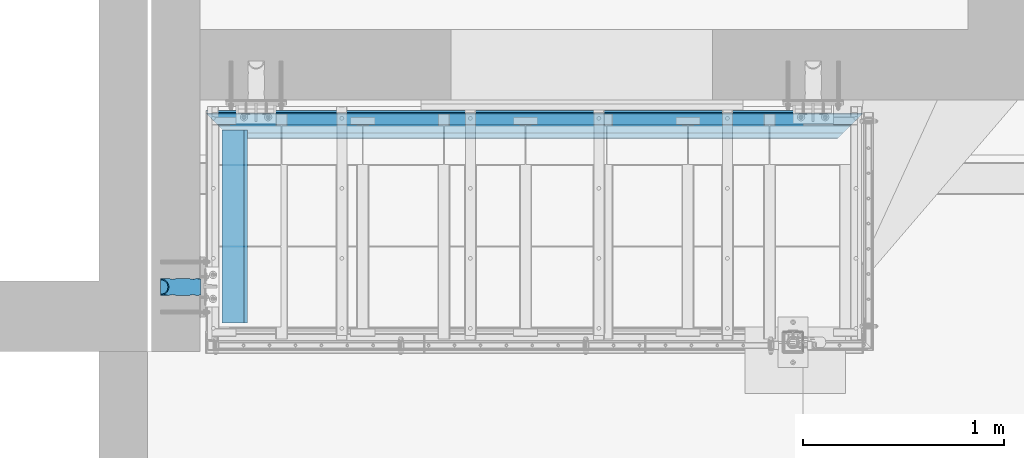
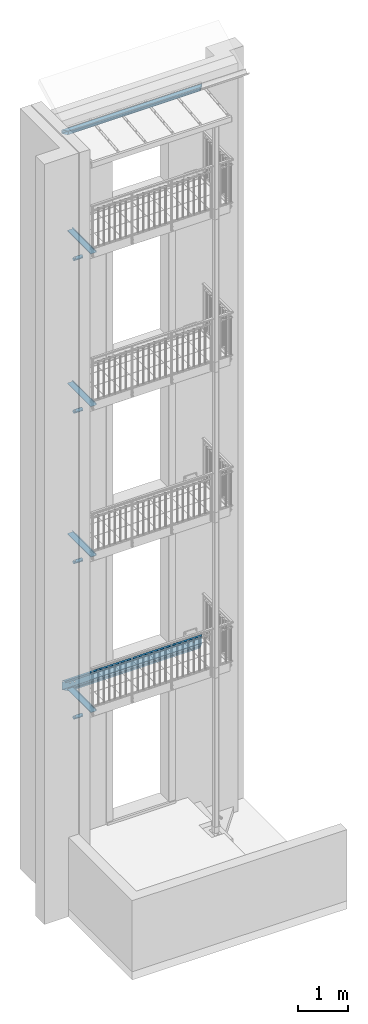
# One storey, part 49 of 162: 10 beams, 40 openings.
"""IFC2X3 building model written with IfcOpenShell, lengths in millimetres."""

import ifcopenshell
import ifcopenshell.guid

model = None  # the IFC model being written
_history = None  # IfcOwnerHistory: only IFC2X3 demands one
_inside = {}  # id of a spatial element -> (the spatial element, [elements in it])
_under = {}  # id of a project, library or spatial element -> (it, [spatial elements below it])
_declared = {}  # id of a project -> (the project, [libraries it declares])
_typed = {}  # id of a type object -> (the type object, [elements of that type])
_made_of = {}  # id of a material, layer set ... -> (it, [elements and type objects made of it])


def new_model(schema):
    """Start an empty IFC model of exactly this schema.

    Asked for "IFC4X3", IfcOpenShell would pick the latest addendum, in which some entities
    have other attributes; the version numbers below select the first issue.
    IFC2X3 requires an IfcOwnerHistory on every rooted entity: one is made here for all.
    """
    global model, _history
    if schema == "IFC4X3":
        model = ifcopenshell.file(schema_version=(4, 3, 0, 0))
    else:
        model = ifcopenshell.file(schema=schema)
    _inside.clear()
    _under.clear()
    _declared.clear()
    _typed.clear()
    _made_of.clear()
    _history = None
    if model.schema == "IFC2X3":
        org = make("IfcOrganization", Name="unknown")
        user = make(
            "IfcPersonAndOrganization",
            ThePerson=make("IfcPerson", FamilyName="unknown"),
            TheOrganization=org,
        )
        app = make(
            "IfcApplication",
            ApplicationDeveloper=org,
            Version="unknown",
            ApplicationFullName="unknown",
            ApplicationIdentifier="unknown",
        )
        _history = make(
            "IfcOwnerHistory",
            OwningUser=user,
            OwningApplication=app,
            ChangeAction="ADDED",
            CreationDate=0,
        )
    return model


def make(cls, **values):
    """One entity of the class cls with the attributes given. An attribute that is None is left unset."""
    return model.create_entity(
        cls, **{name: value for name, value in values.items() if value is not None}
    )


def entity(cls, *values):
    """Any entity or typed value of the class cls, its attributes in the order of the schema. None: left unset."""
    e = model.create_entity(cls)
    for i, value in enumerate(values):
        if value is not None:
            e[i] = value
    return e


def rooted(cls, **values):
    """An entity with a GlobalId (a new one), such as an element, a storey or a relation."""
    return make(cls, GlobalId=ifcopenshell.guid.new(), OwnerHistory=_history, **values)


def si_unit(unit_type, name, prefix=None):
    """IfcSIUnit, for example si_unit("LENGTHUNIT", "METRE", prefix="MILLI")."""
    return make("IfcSIUnit", UnitType=unit_type, Prefix=prefix, Name=name)


def converted_unit(unit_type, name, factor, base, dimensions=None, offset=None):
    """IfcConversionBasedUnit, such as the inch: factor (a typed value) times the base unit."""
    return make(
        "IfcConversionBasedUnit"
        if offset is None
        else "IfcConversionBasedUnitWithOffset",
        ConversionOffset=offset,
        Dimensions=None
        if dimensions is None
        else entity("IfcDimensionalExponents", *dimensions),
        UnitType=unit_type,
        Name=name,
        ConversionFactor=make(
            "IfcMeasureWithUnit", ValueComponent=factor, UnitComponent=base
        ),
    )


def assignment(units):
    """IfcUnitAssignment: the units of a project."""
    return None if units is None else make("IfcUnitAssignment", Units=units)


def point(xyz):
    """IfcCartesianPoint."""
    return None if xyz is None else make("IfcCartesianPoint", Coordinates=xyz)


def direction(xyz):
    """IfcDirection."""
    return None if xyz is None else make("IfcDirection", DirectionRatios=xyz)


def frame(location, z_axis=None, x_axis=None):
    """IfcAxis2Placement3D, a coordinate frame: its origin and axes. An axis left out is left unset."""
    return make(
        "IfcAxis2Placement3D",
        Location=point(location),
        Axis=direction(z_axis),
        RefDirection=direction(x_axis),
    )


def frame_2d(location, x_axis=None):
    """IfcAxis2Placement2D, a coordinate frame in the plane: its origin and x axis."""
    return make(
        "IfcAxis2Placement2D", Location=point(location), RefDirection=direction(x_axis)
    )


def origin():
    """The frame at (0, 0, 0) with its axes left unset."""
    return frame((0.0, 0.0, 0.0))


def origin_with_axes():
    """The frame at (0, 0, 0) with the z axis (0, 0, 1) and the x axis (1, 0, 0) written out."""
    return frame((0.0, 0.0, 0.0), z_axis=(0.0, 0.0, 1.0), x_axis=(1.0, 0.0, 0.0))


def origin_2d():
    """The frame at (0, 0) in the plane with its x axis left unset."""
    return frame_2d((0.0, 0.0))


def place(relative_to, where):
    """IfcLocalPlacement: puts the frame where relative to a parent placement (None: the world)."""
    return make(
        "IfcLocalPlacement", PlacementRelTo=relative_to, RelativePlacement=where
    )


def context(
    kind, dimensions, precision=None, world=None, true_north=None, identifier=None
):
    """IfcGeometricRepresentationContext, for example the 3D "Model" context."""
    return make(
        "IfcGeometricRepresentationContext",
        ContextIdentifier=identifier,
        ContextType=kind,
        CoordinateSpaceDimension=dimensions,
        Precision=precision,
        WorldCoordinateSystem=world,
        TrueNorth=true_north,
    )


def project(units=None, contexts=None):
    """IfcProject with its units and contexts."""
    return rooted(
        "IfcProject",
        Name="project",
        RepresentationContexts=contexts,
        UnitsInContext=assignment(units),
    )


def spatial(cls, under=None, at=None, **own):
    """A site, building, storey or space (cls), placed at a placement, below another one or the project."""
    s = rooted(cls, ObjectPlacement=at, **own)
    if under is not None:
        _under.setdefault(under.id(), (under, []))[1].append(s)
    return s


def polyline(points):
    """IfcPolyline through the points."""
    return make("IfcPolyline", Points=[point(p) for p in points])


def circle_curve(where, radius):
    """IfcCircle in the frame where."""
    return make("IfcCircle", Position=where, Radius=radius)


def line_curve(start, along, magnitude):
    """IfcLine from a point along a vector."""
    return make(
        "IfcLine",
        Pnt=point(start),
        Dir=make("IfcVector", Orientation=direction(along), Magnitude=magnitude),
    )


def trimmed(basis, trim1, trim2, sense, master):
    """IfcTrimmedCurve: the piece of a basis curve between two trims."""
    return make(
        "IfcTrimmedCurve",
        BasisCurve=basis,
        Trim1=trim1,
        Trim2=trim2,
        SenseAgreement=sense,
        MasterRepresentation=master,
    )


def segment(curve, same_sense, transition):
    """IfcCompositeCurveSegment."""
    return make(
        "IfcCompositeCurveSegment",
        Transition=transition,
        SameSense=same_sense,
        ParentCurve=curve,
    )


def composite_curve(segments, self_intersect=None):
    """IfcCompositeCurve: segments joined end to end."""
    return make("IfcCompositeCurve", Segments=segments, SelfIntersect=self_intersect)


def profile(cls, at=None, kind="AREA", **sizes):
    """A parametric profile (cls). Its sizes go by their IFC names, for example OverallWidth=200.0."""
    return make(cls, ProfileType=kind, Position=at, **sizes)


def hollow_rectangle(**sizes):
    """IfcRectangleHollowProfileDef."""
    return profile("IfcRectangleHollowProfileDef", **sizes)


def circle(**sizes):
    """IfcCircleProfileDef."""
    return profile("IfcCircleProfileDef", **sizes)


def hollow_circle(**sizes):
    """IfcCircleHollowProfileDef."""
    return profile("IfcCircleHollowProfileDef", **sizes)


def outline(outer, holes=None, kind="AREA"):
    """IfcArbitraryClosedProfileDef: a profile drawn as a closed curve; with holes, ...WithVoids."""
    if holes is None:
        return make("IfcArbitraryClosedProfileDef", ProfileType=kind, OuterCurve=outer)
    return make(
        "IfcArbitraryProfileDefWithVoids",
        ProfileType=kind,
        OuterCurve=outer,
        InnerCurves=holes,
    )


def extrude(swept, where, along, depth):
    """IfcExtrudedAreaSolid: the profile swept, set in the frame where, extruded along a direction by depth."""
    return make(
        "IfcExtrudedAreaSolid",
        SweptArea=swept,
        Position=where,
        ExtrudedDirection=direction(along),
        Depth=depth,
    )


def clip(a, b, op="DIFFERENCE"):
    """IfcBooleanClippingResult: the solid a cut by the half space b."""
    return make(
        "IfcBooleanClippingResult", Operator=op, FirstOperand=a, SecondOperand=b
    )


def halfspace(plane, agree):
    """IfcHalfSpaceSolid: all space on one side of the plane z = 0 of the frame plane."""
    return make(
        "IfcHalfSpaceSolid",
        BaseSurface=make("IfcPlane", Position=plane),
        AgreementFlag=agree,
    )


def shape(context_of_items, identifier, shape_type, items):
    """IfcShapeRepresentation: the items that make up one representation, for example the "Body"."""
    return make(
        "IfcShapeRepresentation",
        ContextOfItems=context_of_items,
        RepresentationIdentifier=identifier,
        RepresentationType=shape_type,
        Items=items,
    )


def material(Name=None, Category=None):
    """IfcMaterial."""
    return make("IfcMaterial", Name=Name, Category=Category)


def made_of(thing, what):
    """Note that an element or type object is made of a material, layer set ...; save() writes the relation."""
    if what is not None:
        _made_of.setdefault(what.id(), (what, []))[1].append(thing)
    return thing


def element(
    cls,
    number,
    at=None,
    inside=None,
    cuts=None,
    type_object=None,
    material=None,
    context=None,
    identifier="Body",
    shape_type=None,
    held_by="IfcProductDefinitionShape",
    body=None,
    shapes=None,
    **own,
):
    """One element of the class cls, such as IfcWall. Its Tag is "e" and its number.

    at: its placement. inside: the storey or other place that contains it. cuts: it is an
    opening in that element (IfcRelVoidsElement). A single representation is given by context,
    identifier, shape_type and body (its items); several are given by shapes. held_by: the class
    of the entity that holds the representations. save() writes the other relations.
    """
    e = rooted(cls, Tag="e%d" % number, ObjectPlacement=at, **own)
    if body is not None:
        shapes = [shape(context, identifier, shape_type, body)]
    if shapes is not None:
        e.Representation = make(held_by, Representations=shapes)
    if inside is not None:
        _inside.setdefault(inside.id(), (inside, []))[1].append(e)
    if cuts is not None:
        rooted(
            "IfcRelVoidsElement", RelatingBuildingElement=cuts, RelatedOpeningElement=e
        )
    if type_object is not None:
        _typed.setdefault(type_object.id(), (type_object, []))[1].append(e)
    return made_of(e, material)


def aggregate(whole, parts):
    """IfcRelAggregates: a whole, such as a stair, and the parts it consists of."""
    return rooted("IfcRelAggregates", RelatingObject=whole, RelatedObjects=parts)


def save(model, path):
    """Write the relations noted so far, then the file.

    IfcRelAggregates (storeys below a building ...), IfcRelContainedInSpatialStructure (elements
    in a storey), IfcRelDefinesByType, IfcRelAssociatesMaterial and IfcRelDeclares: one each for
    every whole, place, type object, material and project.
    """
    for whole, parts in _under.values():
        aggregate(whole, parts)
    for where, things in _inside.values():
        rooted(
            "IfcRelContainedInSpatialStructure",
            RelatedElements=things,
            RelatingStructure=where,
        )
    for kind, things in _typed.values():
        rooted("IfcRelDefinesByType", RelatedObjects=things, RelatingType=kind)
    for what, things in _made_of.values():
        rooted("IfcRelAssociatesMaterial", RelatedObjects=things, RelatingMaterial=what)
    for by, libraries in _declared.values():
        rooted("IfcRelDeclares", RelatingContext=by, RelatedDefinitions=libraries)
    model.write(path)


model = new_model("IFC2X3")

# Units and contexts
model_context = context("Model", 3, precision=1e-09, world=origin_with_axes())
ifc_project = project(units=[si_unit("LENGTHUNIT", "METRE", prefix="MILLI"), si_unit("AREAUNIT", "SQUARE_METRE"), si_unit("VOLUMEUNIT", "CUBIC_METRE"), converted_unit("PLANEANGLEUNIT", "DEGREE", entity("IfcPlaneAngleMeasure", 0.01745329), si_unit("PLANEANGLEUNIT", "RADIAN"), dimensions=[0, 0, 0, 0, 0, 0, 0])], contexts=[model_context])

# Site, building, storey
site_placement = place(None, origin_with_axes())
site = spatial("IfcSite", under=ifc_project, at=site_placement, Name="Hermannstra?e 1a, 60318 Frankfurt", CompositionType="ELEMENT")
building_placement = place(site_placement, origin_with_axes())
building = spatial("IfcBuilding", under=site, at=building_placement, Name="Struktur 1", CompositionType="ELEMENT")
storey_placement = place(building_placement, origin_with_axes())
storey = spatial("IfcBuildingStorey", under=building, at=storey_placement, Name="Default Storey", CompositionType="ELEMENT", Elevation=0.0)

# Beams
ifc_material_1 = material(Name="Alu")
for number, where, z_axis, x_axis in (
    (1, (2633.80936482, 1625.609373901, 7577.0), (0.0, -1.0, 0.0), (1.0, 0.0, 0.0)),
    (2, (2633.80936482, 1625.609373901, 11276.999), (0.0, -1.0, 0.0), (1.0, 0.0, 0.0)),
    (3, (2633.80936482, 1625.609373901, 15033.999), (0.0, -1.0, 0.0), (1.0, 0.0, 0.0)),
):
    element("IfcBeam", number, at=place(None, frame(where, z_axis=z_axis, x_axis=x_axis)), inside=storey, material=ifc_material_1, Name="-", ObjectType="-", context=model_context, shape_type="SweptSolid", body=[
        extrude(outline(polyline([(109.453520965, 47.514348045), (125.0, 49.699263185), (125.0, 20.0), (0.0, 20.0), (0.0, 0.0), (2.0, 0.0), (2.0, 18.0), (127.0, 18.0), (127.0, 52.0), (109.175174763, 49.494884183), (109.453520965, 47.514348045)])), origin(), (0.0, 0.0, -1.0), 960.0),
    ])

# Beam, openings
ifc_material_2 = material(Name="S235JR")
beam_1_placement = place(None, frame((2528.30936482, 1805.609373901, 11169.999), z_axis=(-1.0, 0.0, 0.0), x_axis=(0.0, 0.0, 1.0)))
beam_1 = element("IfcBeam", 4, at=beam_1_placement, inside=storey, material=ifc_material_2, Name="-", ObjectType="-", context=model_context, shape_type="SweptSolid", body=[
    extrude(hollow_circle(Radius=41.25, WallThickness=5.0, at=origin_2d()), origin(), (0.0, 0.0, 1.0), 200.0),
])
opening_1_placement = place(beam_1_placement, frame((-36.368270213, -141.35, 236.366855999), z_axis=(0.0, -1.0, 0.0), x_axis=(0.707106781, 0.0, -0.707106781)))
element("IfcOpeningElement", 5, at=opening_1_placement, cuts=beam_1, ObjectType="Opening", context=model_context, shape_type="SweptSolid", body=[
    extrude(outline(polyline([(0.0, 0.0), (179.585201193, 0.0), (64.987133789, 114.598067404), (0.0, 0.0)])), origin(), (0.0, 0.0, -1.0), 282.7),
])
opening_2_placement = place(beam_1_placement, frame((0.0, -32.727655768, 100.0), z_axis=(0.0, -1.0, 0.0), x_axis=(0.0, 0.0, -1.0)))
element("IfcOpeningElement", 6, at=opening_2_placement, cuts=beam_1, ObjectType="Opening", context=model_context, shape_type="SweptSolid", body=[
    extrude(circle(Radius=15.001, at=frame_2d((60.0, 0.0), x_axis=(1.0, 0.0))), origin(), (0.0, 0.0, 1.0), 9.022344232),
])
opening_3_placement = place(beam_1_placement, frame((0.0, -32.727655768, 100.0), z_axis=(0.0, -1.0, 0.0), x_axis=(0.0, 0.0, -1.0)))
element("IfcOpeningElement", 7, at=opening_3_placement, cuts=beam_1, ObjectType="Opening", context=model_context, shape_type="SweptSolid", body=[
    extrude(circle(Radius=15.001, at=frame_2d((-40.0, 0.0), x_axis=(1.0, 0.0))), origin(), (0.0, 0.0, 1.0), 9.022344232),
])
opening_4_placement = place(beam_1_placement, frame((0.0, 32.727655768, 55.001), z_axis=(0.0, -1.0, 0.0), x_axis=(1.0, 0.0, 0.0)))
element("IfcOpeningElement", 8, at=opening_4_placement, cuts=beam_1, ObjectType="Opening", context=model_context, shape_type="SweptSolid", body=[
    extrude(circle(Radius=15.001, at=frame_2d((0.0, -15.001), x_axis=(1.0, 0.0))), origin(), (0.0, 0.0, -1.0), 9.022344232),
])
opening_5_placement = place(beam_1_placement, frame((0.0, 32.727655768, 155.001), z_axis=(0.0, -1.0, 0.0), x_axis=(1.0, 0.0, 0.0)))
element("IfcOpeningElement", 9, at=opening_5_placement, cuts=beam_1, ObjectType="Opening", context=model_context, shape_type="SweptSolid", body=[
    extrude(circle(Radius=15.001, at=frame_2d((0.0, -15.001), x_axis=(1.0, 0.0))), origin(), (0.0, 0.0, -1.0), 9.022344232),
])

beam_2_placement = place(None, frame((2528.310071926, 1805.610081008, 14926.999), z_axis=(-1.0, 0.0, 0.0), x_axis=(0.0, 0.0, 1.0)))
beam_2 = element("IfcBeam", 10, at=beam_2_placement, inside=storey, material=ifc_material_2, Name="-", ObjectType="-", context=model_context, shape_type="SweptSolid", body=[
    extrude(hollow_circle(Radius=41.25, WallThickness=5.0, at=origin_2d()), origin(), (0.0, 0.0, 1.0), 200.0),
])
opening_6_placement = place(beam_2_placement, frame((-36.368270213, -141.35, 236.366855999), z_axis=(0.0, -1.0, 0.0), x_axis=(0.707106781, 0.0, -0.707106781)))
element("IfcOpeningElement", 11, at=opening_6_placement, cuts=beam_2, ObjectType="Opening", context=model_context, shape_type="SweptSolid", body=[
    extrude(outline(polyline([(0.0, 0.0), (179.585201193, 0.0), (64.987133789, 114.598067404), (0.0, 0.0)])), origin(), (0.0, 0.0, -1.0), 282.7),
])
opening_7_placement = place(beam_2_placement, frame((0.0, -32.727655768, 100.0), z_axis=(0.0, -1.0, 0.0), x_axis=(0.0, 0.0, -1.0)))
element("IfcOpeningElement", 12, at=opening_7_placement, cuts=beam_2, ObjectType="Opening", context=model_context, shape_type="SweptSolid", body=[
    extrude(circle(Radius=15.001, at=frame_2d((60.0, 0.0), x_axis=(1.0, 0.0))), origin(), (0.0, 0.0, 1.0), 9.022344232),
])
opening_8_placement = place(beam_2_placement, frame((0.0, -32.727655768, 100.0), z_axis=(0.0, -1.0, 0.0), x_axis=(0.0, 0.0, -1.0)))
element("IfcOpeningElement", 13, at=opening_8_placement, cuts=beam_2, ObjectType="Opening", context=model_context, shape_type="SweptSolid", body=[
    extrude(circle(Radius=15.001, at=frame_2d((-40.0, 0.0), x_axis=(1.0, 0.0))), origin(), (0.0, 0.0, 1.0), 9.022344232),
])
opening_9_placement = place(beam_2_placement, frame((0.0, 32.727655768, 55.001), z_axis=(0.0, -1.0, 0.0), x_axis=(1.0, 0.0, 0.0)))
element("IfcOpeningElement", 14, at=opening_9_placement, cuts=beam_2, ObjectType="Opening", context=model_context, shape_type="SweptSolid", body=[
    extrude(circle(Radius=15.001, at=frame_2d((0.0, -15.001), x_axis=(1.0, 0.0))), origin(), (0.0, 0.0, -1.0), 9.022344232),
])
opening_10_placement = place(beam_2_placement, frame((0.0, 32.727655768, 155.001), z_axis=(0.0, -1.0, 0.0), x_axis=(1.0, 0.0, 0.0)))
element("IfcOpeningElement", 15, at=opening_10_placement, cuts=beam_2, ObjectType="Opening", context=model_context, shape_type="SweptSolid", body=[
    extrude(circle(Radius=15.001, at=frame_2d((0.0, -15.001), x_axis=(1.0, 0.0))), origin(), (0.0, 0.0, -1.0), 9.022344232),
])

beam_3_placement = place(None, frame((2528.308657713, 1805.608666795, 7470.0), z_axis=(-1.0, 0.0, 0.0), x_axis=(0.0, 0.0, 1.0)))
beam_3 = element("IfcBeam", 16, at=beam_3_placement, inside=storey, material=ifc_material_2, Name="-", ObjectType="-", context=model_context, shape_type="SweptSolid", body=[
    extrude(hollow_circle(Radius=41.25, WallThickness=5.0, at=origin_2d()), origin(), (0.0, 0.0, 1.0), 200.0),
])
opening_11_placement = place(beam_3_placement, frame((-36.368270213, -141.35, 236.366855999), z_axis=(0.0, -1.0, 0.0), x_axis=(0.707106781, 0.0, -0.707106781)))
element("IfcOpeningElement", 17, at=opening_11_placement, cuts=beam_3, ObjectType="Opening", context=model_context, shape_type="SweptSolid", body=[
    extrude(outline(polyline([(0.0, 0.0), (179.585201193, 0.0), (64.987133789, 114.598067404), (0.0, 0.0)])), origin(), (0.0, 0.0, -1.0), 282.7),
])
opening_12_placement = place(beam_3_placement, frame((0.0, -32.727655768, 100.0), z_axis=(0.0, -1.0, 0.0), x_axis=(0.0, 0.0, -1.0)))
element("IfcOpeningElement", 18, at=opening_12_placement, cuts=beam_3, ObjectType="Opening", context=model_context, shape_type="SweptSolid", body=[
    extrude(circle(Radius=15.001, at=frame_2d((60.0, 0.0), x_axis=(1.0, 0.0))), origin(), (0.0, 0.0, 1.0), 9.022344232),
])
opening_13_placement = place(beam_3_placement, frame((0.0, -32.727655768, 100.0), z_axis=(0.0, -1.0, 0.0), x_axis=(0.0, 0.0, -1.0)))
element("IfcOpeningElement", 19, at=opening_13_placement, cuts=beam_3, ObjectType="Opening", context=model_context, shape_type="SweptSolid", body=[
    extrude(circle(Radius=15.001, at=frame_2d((-40.0, 0.0), x_axis=(1.0, 0.0))), origin(), (0.0, 0.0, 1.0), 9.022344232),
])
opening_14_placement = place(beam_3_placement, frame((0.0, 32.727655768, 55.001), z_axis=(0.0, -1.0, 0.0), x_axis=(1.0, 0.0, 0.0)))
element("IfcOpeningElement", 20, at=opening_14_placement, cuts=beam_3, ObjectType="Opening", context=model_context, shape_type="SweptSolid", body=[
    extrude(circle(Radius=15.001, at=frame_2d((0.0, -15.001), x_axis=(1.0, 0.0))), origin(), (0.0, 0.0, -1.0), 9.022344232),
])
opening_15_placement = place(beam_3_placement, frame((0.0, 32.727655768, 155.001), z_axis=(0.0, -1.0, 0.0), x_axis=(1.0, 0.0, 0.0)))
element("IfcOpeningElement", 21, at=opening_15_placement, cuts=beam_3, ObjectType="Opening", context=model_context, shape_type="SweptSolid", body=[
    extrude(circle(Radius=15.001, at=frame_2d((0.0, -15.001), x_axis=(1.0, 0.0))), origin(), (0.0, 0.0, -1.0), 9.022344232),
])

beam_4_placement = place(None, frame((2528.310071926, 1805.610081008, 3645.0), z_axis=(-1.0, 0.0, 0.0), x_axis=(0.0, 0.0, 1.0)))
beam_4 = element("IfcBeam", 22, at=beam_4_placement, inside=storey, material=ifc_material_2, Name="-", ObjectType="-", context=model_context, shape_type="SweptSolid", body=[
    extrude(hollow_circle(Radius=41.25, WallThickness=5.0, at=origin_2d()), origin(), (0.0, 0.0, 1.0), 200.0),
])
opening_16_placement = place(beam_4_placement, frame((-36.368270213, -141.35, 236.366855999), z_axis=(0.0, -1.0, 0.0), x_axis=(0.707106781, 0.0, -0.707106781)))
element("IfcOpeningElement", 23, at=opening_16_placement, cuts=beam_4, ObjectType="Opening", context=model_context, shape_type="SweptSolid", body=[
    extrude(outline(polyline([(0.0, 0.0), (179.585201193, 0.0), (64.987133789, 114.598067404), (0.0, 0.0)])), origin(), (0.0, 0.0, -1.0), 282.7),
])
opening_17_placement = place(beam_4_placement, frame((0.0, -32.727655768, 100.0), z_axis=(0.0, -1.0, 0.0), x_axis=(0.0, 0.0, -1.0)))
element("IfcOpeningElement", 24, at=opening_17_placement, cuts=beam_4, ObjectType="Opening", context=model_context, shape_type="SweptSolid", body=[
    extrude(circle(Radius=15.001, at=frame_2d((60.0, 0.0), x_axis=(1.0, 0.0))), origin(), (0.0, 0.0, 1.0), 9.022344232),
])
opening_18_placement = place(beam_4_placement, frame((0.0, -32.727655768, 100.0), z_axis=(0.0, -1.0, 0.0), x_axis=(0.0, 0.0, -1.0)))
element("IfcOpeningElement", 25, at=opening_18_placement, cuts=beam_4, ObjectType="Opening", context=model_context, shape_type="SweptSolid", body=[
    extrude(circle(Radius=15.001, at=frame_2d((-40.0, 0.0), x_axis=(1.0, 0.0))), origin(), (0.0, 0.0, 1.0), 9.022344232),
])
opening_19_placement = place(beam_4_placement, frame((0.0, 32.727655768, 55.001), z_axis=(0.0, -1.0, 0.0), x_axis=(1.0, 0.0, 0.0)))
element("IfcOpeningElement", 26, at=opening_19_placement, cuts=beam_4, ObjectType="Opening", context=model_context, shape_type="SweptSolid", body=[
    extrude(circle(Radius=15.001, at=frame_2d((0.0, -15.001), x_axis=(1.0, 0.0))), origin(), (0.0, 0.0, -1.0), 9.022344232),
])
opening_20_placement = place(beam_4_placement, frame((0.0, 32.727655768, 155.001), z_axis=(0.0, -1.0, 0.0), x_axis=(1.0, 0.0, 0.0)))
element("IfcOpeningElement", 27, at=opening_20_placement, cuts=beam_4, ObjectType="Opening", context=model_context, shape_type="SweptSolid", body=[
    extrude(circle(Radius=15.001, at=frame_2d((0.0, -15.001), x_axis=(1.0, 0.0))), origin(), (0.0, 0.0, -1.0), 9.022344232),
])

ifc_material_3 = material(Name="S355JR")
beam_5_placement = place(None, frame((6200.616602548, 2605.609373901, 3840.0), z_axis=(-1.0, 0.0, 0.0), x_axis=(0.0, -1.0, 0.0)))
beam_5 = element("IfcBeam", 28, at=beam_5_placement, inside=storey, material=ifc_material_3, Name="-", ObjectType="-", context=model_context, shape_type="Clipping", body=[
    clip(clip(extrude(outline(composite_curve([segment(trimmed(circle_curve(frame_2d((57.999999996, -107.999999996), x_axis=(1.0, 0.0)), 7.000000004), [point((58.0, -115.0))], [point((65.0, -108.0))], True, "CARTESIAN"), True, "CONTINUOUS"), segment(trimmed(line_curve((65.0, -108.0), (0.0, 1.0), 31.0), [point((65.0, -108.0))], [point((65.0, -77.0))], True, "CARTESIAN"), True, "CONTINUOUS"), segment(trimmed(circle_curve(frame_2d((57.999999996, -77.000000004), x_axis=(1.0, 0.0)), 7.000000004), [point((65.0, -77.0))], [point((58.0, -70.0))], True, "CARTESIAN"), True, "CONTINUOUS"), segment(trimmed(line_curve((58.0, -70.0), (-1.0, 0.0), 23.0), [point((58.0, -70.0))], [point((35.0, -70.0))], True, "CARTESIAN"), True, "CONTINUOUS"), segment(trimmed(line_curve((35.0, -70.0), (0.0, -1.0), 4.0), [point((35.0, -70.0))], [point((35.0, -74.0))], True, "CARTESIAN"), True, "CONTINUOUS"), segment(trimmed(line_curve((35.0, -74.0), (1.0, 0.0), 23.0), [point((35.0, -74.0))], [point((58.0, -74.0))], True, "CARTESIAN"), True, "CONTINUOUS"), segment(trimmed(circle_curve(frame_2d((57.999999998, -77.000000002), x_axis=(-1.0, 0.0)), 3.000000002), [point((58.0, -74.0))], [point((61.0, -77.0))], False, "CARTESIAN"), True, "CONTINUOUS"), segment(trimmed(line_curve((61.0, -77.0), (0.0, -1.0), 31.0), [point((61.0, -77.0))], [point((61.0, -108.0))], True, "CARTESIAN"), True, "CONTINUOUS"), segment(trimmed(circle_curve(frame_2d((57.999999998, -107.999999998), x_axis=(-1.0, 0.0)), 3.000000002), [point((61.0, -108.0))], [point((58.0, -111.0))], False, "CARTESIAN"), True, "CONTINUOUS"), segment(trimmed(line_curve((58.0, -111.0), (-1.0, 0.0), 116.0), [point((58.0, -111.0))], [point((-58.0, -111.0))], True, "CARTESIAN"), True, "CONTINUOUS"), segment(trimmed(circle_curve(frame_2d((-57.999999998, -107.999999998), x_axis=(-1.0, 0.0)), 3.000000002), [point((-58.0, -111.0))], [point((-61.0, -108.0))], False, "CARTESIAN"), True, "CONTINUOUS"), segment(trimmed(line_curve((-61.0, -108.0), (0.0, 1.0), 216.0), [point((-61.0, -108.0))], [point((-61.0, 108.0))], True, "CARTESIAN"), True, "CONTINUOUS"), segment(trimmed(circle_curve(frame_2d((-57.999999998, 107.999999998), x_axis=(-1.0, 0.0)), 3.000000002), [point((-61.0, 108.0))], [point((-58.0, 111.0))], False, "CARTESIAN"), True, "CONTINUOUS"), segment(trimmed(line_curve((-58.0, 111.0), (1.0, 0.0), 46.0), [point((-58.0, 111.0))], [point((-12.0, 111.0))], True, "CARTESIAN"), True, "CONTINUOUS"), segment(trimmed(circle_curve(frame_2d((-12.000000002, 107.999999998), x_axis=(-1.0, 0.0)), 3.000000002), [point((-12.0, 111.0))], [point((-9.0, 108.0))], False, "CARTESIAN"), True, "CONTINUOUS"), segment(trimmed(line_curve((-9.0, 108.0), (0.0, -1.0), 33.0), [point((-9.0, 108.0))], [point((-9.0, 75.0))], True, "CARTESIAN"), True, "CONTINUOUS"), segment(trimmed(line_curve((-9.0, 75.0), (1.0, 0.0), 4.0), [point((-9.0, 75.0))], [point((-5.0, 75.0))], True, "CARTESIAN"), True, "CONTINUOUS"), segment(trimmed(line_curve((-5.0, 75.0), (0.0, 1.0), 33.0), [point((-5.0, 75.0))], [point((-5.0, 108.0))], True, "CARTESIAN"), True, "CONTINUOUS"), segment(trimmed(circle_curve(frame_2d((-12.000000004, 107.999999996), x_axis=(1.0, 0.0)), 7.000000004), [point((-5.0, 108.0))], [point((-12.0, 115.0))], True, "CARTESIAN"), True, "CONTINUOUS"), segment(trimmed(line_curve((-12.0, 115.0), (-1.0, 0.0), 46.0), [point((-12.0, 115.0))], [point((-58.0, 115.0))], True, "CARTESIAN"), True, "CONTINUOUS"), segment(trimmed(circle_curve(frame_2d((-57.999999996, 107.999999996), x_axis=(1.0, 0.0)), 7.000000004), [point((-58.0, 115.0))], [point((-65.0, 108.0))], True, "CARTESIAN"), True, "CONTINUOUS"), segment(trimmed(line_curve((-65.0, 108.0), (0.0, -1.0), 216.0), [point((-65.0, 108.0))], [point((-65.0, -108.0))], True, "CARTESIAN"), True, "CONTINUOUS"), segment(trimmed(circle_curve(frame_2d((-57.999999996, -107.999999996), x_axis=(1.0, 0.0)), 7.000000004), [point((-65.0, -108.0))], [point((-58.0, -115.0))], True, "CARTESIAN"), True, "CONTINUOUS"), segment(trimmed(line_curve((-58.0, -115.0), (1.0, 0.0), 116.0), [point((-58.0, -115.0))], [point((58.0, -115.0))], True, "CARTESIAN"), True, "CONTINUOUS")], self_intersect=False)), origin(), (0.0, 0.0, 1.0), 4024.614475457), halfspace(frame((-6.350702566, -3840.0, 3588.656526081), z_axis=(-0.707106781, 0.0, -0.707106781), x_axis=(-0.707106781, 0.0, 0.707106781)), True)), halfspace(frame((4181.958662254, -3840.0, 4624.267314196), z_axis=(-0.707106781, 0.0, 0.707106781), x_axis=(0.707106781, 0.0, 0.707106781)), True)),
])
opening_21_placement = place(beam_5_placement, frame((-66.702560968, 215.1, 374.550741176), z_axis=(0.0, -1.0, 0.0), x_axis=(0.0, 0.0, -1.0)))
element("IfcOpeningElement", 29, at=opening_21_placement, cuts=beam_5, ObjectType="Opening", context=model_context, shape_type="SweptSolid", body=[
    extrude(outline(polyline([(-6.757496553, -8.512020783), (6.757496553, -8.512020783), (6.757496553, 8.512020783), (-6.757496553, 8.512020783), (-6.757496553, -8.512020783)])), origin(), (0.0, 0.0, 1.0), 430.2),
])
opening_22_placement = place(beam_5_placement, frame((-75.214581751, 215.1, 3643.306237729), z_axis=(0.0, 1.0, 0.0), x_axis=(0.0, 0.0, 1.0)))
element("IfcOpeningElement", 30, at=opening_22_placement, cuts=beam_5, ObjectType="Opening", context=model_context, shape_type="SweptSolid", body=[
    extrude(outline(polyline([(0.0, 0.0), (13.514993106, 0.0), (13.514993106, 17.024041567), (0.0, 17.024041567), (0.0, 0.0)])), origin(), (0.0, 0.0, -1.0), 430.2),
])
opening_23_placement = place(beam_5_placement, frame((-60.5, 115.0, 382.310359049), z_axis=(-1.0, 0.0, 0.0), x_axis=(0.0, 0.0, 1.0)))
element("IfcOpeningElement", 31, at=opening_23_placement, cuts=beam_5, ObjectType="Opening", context=model_context, shape_type="SweptSolid", body=[
    extrude(circle(Radius=19.001, at=frame_2d((25.0, -25.0), x_axis=(1.0, 0.0))), origin(), (0.0, 0.0, 1.0), 5.0),
])
opening_24_placement = place(beam_5_placement, frame((-60.5, 90.0, 3636.305116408), z_axis=(1.0, 0.0, 0.0), x_axis=(0.0, 1.0, 0.0)))
element("IfcOpeningElement", 32, at=opening_24_placement, cuts=beam_5, ObjectType="Opening", context=model_context, shape_type="SweptSolid", body=[
    extrude(circle(Radius=19.001, at=frame_2d((0.0, -19.001), x_axis=(1.0, 0.0))), origin(), (0.0, 0.0, -1.0), 5.0),
])
opening_25_placement = place(beam_5_placement, frame((-65.5, 19.999999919, 3397.306530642), z_axis=(1.0, 0.0, 0.0), x_axis=(0.0, 0.0, -1.0)))
element("IfcOpeningElement", 33, at=opening_25_placement, cuts=beam_5, ObjectType="Opening", context=model_context, shape_type="SweptSolid", body=[
    extrude(outline(composite_curve([segment(trimmed(line_curve((41.5, 20.999), (1.0, 0.0), 17.0), [point((41.5, 20.999))], [point((58.5, 20.999))], True, "CARTESIAN"), True, "CONTINUOUS"), segment(trimmed(circle_curve(frame_2d((58.5, 30.0), x_axis=(1.0, 0.0)), 9.001), [point((58.5, 20.999))], [point((58.5, 39.001))], True, "CARTESIAN"), True, "CONTINUOUS"), segment(trimmed(line_curve((58.5, 39.001), (-1.0, 0.0), 17.0), [point((58.5, 39.001))], [point((41.5, 39.001))], True, "CARTESIAN"), True, "CONTINUOUS"), segment(trimmed(circle_curve(frame_2d((41.5, 30.0), x_axis=(1.0, 0.0)), 9.001), [point((41.5, 39.001))], [point((41.5, 20.999))], True, "CARTESIAN"), True, "CONTINUOUS")], self_intersect=False)), origin(), (0.0, 0.0, 1.0), 5.0),
])
opening_26_placement = place(beam_5_placement, frame((-65.5, 19.999999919, 3397.306530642), z_axis=(1.0, 0.0, 0.0), x_axis=(0.0, 0.0, -1.0)))
element("IfcOpeningElement", 34, at=opening_26_placement, cuts=beam_5, ObjectType="Opening", context=model_context, shape_type="SweptSolid", body=[
    extrude(outline(composite_curve([segment(trimmed(line_curve((-58.5, 20.999), (1.0, 0.0), 17.0), [point((-58.5, 20.999))], [point((-41.5, 20.999))], True, "CARTESIAN"), True, "CONTINUOUS"), segment(trimmed(circle_curve(frame_2d((-41.5, 30.0), x_axis=(1.0, 0.0)), 9.001), [point((-41.5, 20.999))], [point((-41.5, 39.001))], True, "CARTESIAN"), True, "CONTINUOUS"), segment(trimmed(line_curve((-41.5, 39.001), (-1.0, 0.0), 17.0), [point((-41.5, 39.001))], [point((-58.5, 39.001))], True, "CARTESIAN"), True, "CONTINUOUS"), segment(trimmed(circle_curve(frame_2d((-58.5, 30.0), x_axis=(1.0, 0.0)), 9.001), [point((-58.5, 39.001))], [point((-58.5, 20.999))], True, "CARTESIAN"), True, "CONTINUOUS")], self_intersect=False)), origin(), (0.0, 0.0, 1.0), 5.0),
])
opening_27_placement = place(beam_5_placement, frame((-65.5, 19.999999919, 3397.306530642), z_axis=(1.0, 0.0, 0.0), x_axis=(0.0, 0.0, -1.0)))
element("IfcOpeningElement", 35, at=opening_27_placement, cuts=beam_5, ObjectType="Opening", context=model_context, shape_type="SweptSolid", body=[
    extrude(outline(composite_curve([segment(trimmed(line_curve((41.5, -39.001), (1.0, 0.0), 17.0), [point((41.5, -39.001))], [point((58.5, -39.001))], True, "CARTESIAN"), True, "CONTINUOUS"), segment(trimmed(circle_curve(frame_2d((58.5, -30.0), x_axis=(1.0, 0.0)), 9.001), [point((58.5, -39.001))], [point((58.5, -20.999))], True, "CARTESIAN"), True, "CONTINUOUS"), segment(trimmed(line_curve((58.5, -20.999), (-1.0, 0.0), 17.0), [point((58.5, -20.999))], [point((41.5, -20.999))], True, "CARTESIAN"), True, "CONTINUOUS"), segment(trimmed(circle_curve(frame_2d((41.5, -30.0), x_axis=(1.0, 0.0)), 9.001), [point((41.5, -20.999))], [point((41.5, -39.001))], True, "CARTESIAN"), True, "CONTINUOUS")], self_intersect=False)), origin(), (0.0, 0.0, 1.0), 5.0),
])
opening_28_placement = place(beam_5_placement, frame((-65.5, 19.999999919, 3397.306530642), z_axis=(1.0, 0.0, 0.0), x_axis=(0.0, 0.0, -1.0)))
element("IfcOpeningElement", 36, at=opening_28_placement, cuts=beam_5, ObjectType="Opening", context=model_context, shape_type="SweptSolid", body=[
    extrude(outline(composite_curve([segment(trimmed(line_curve((-58.5, -39.001), (1.0, 0.0), 17.0), [point((-58.5, -39.001))], [point((-41.5, -39.001))], True, "CARTESIAN"), True, "CONTINUOUS"), segment(trimmed(circle_curve(frame_2d((-41.5, -30.0), x_axis=(1.0, 0.0)), 9.001), [point((-41.5, -39.001))], [point((-41.5, -20.999))], True, "CARTESIAN"), True, "CONTINUOUS"), segment(trimmed(line_curve((-41.5, -20.999), (-1.0, 0.0), 17.0), [point((-41.5, -20.999))], [point((-58.5, -20.999))], True, "CARTESIAN"), True, "CONTINUOUS"), segment(trimmed(circle_curve(frame_2d((-58.5, -30.0), x_axis=(1.0, 0.0)), 9.001), [point((-58.5, -20.999))], [point((-58.5, -39.001))], True, "CARTESIAN"), True, "CONTINUOUS")], self_intersect=False)), origin(), (0.0, 0.0, 1.0), 5.0),
])
opening_29_placement = place(beam_5_placement, frame((-65.5, 19.999999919, 627.306530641), z_axis=(1.0, 0.0, 0.0), x_axis=(0.0, 0.0, -1.0)))
element("IfcOpeningElement", 37, at=opening_29_placement, cuts=beam_5, ObjectType="Opening", context=model_context, shape_type="SweptSolid", body=[
    extrude(outline(composite_curve([segment(trimmed(line_curve((41.5, 20.999), (1.0, 0.0), 17.0), [point((41.5, 20.999))], [point((58.5, 20.999))], True, "CARTESIAN"), True, "CONTINUOUS"), segment(trimmed(circle_curve(frame_2d((58.5, 30.0), x_axis=(1.0, 0.0)), 9.001), [point((58.5, 20.999))], [point((58.5, 39.001))], True, "CARTESIAN"), True, "CONTINUOUS"), segment(trimmed(line_curve((58.5, 39.001), (-1.0, 0.0), 17.0), [point((58.5, 39.001))], [point((41.5, 39.001))], True, "CARTESIAN"), True, "CONTINUOUS"), segment(trimmed(circle_curve(frame_2d((41.5, 30.0), x_axis=(1.0, 0.0)), 9.001), [point((41.5, 39.001))], [point((41.5, 20.999))], True, "CARTESIAN"), True, "CONTINUOUS")], self_intersect=False)), origin(), (0.0, 0.0, 1.0), 5.0),
])
opening_30_placement = place(beam_5_placement, frame((-65.5, 19.999999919, 627.306530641), z_axis=(1.0, 0.0, 0.0), x_axis=(0.0, 0.0, -1.0)))
element("IfcOpeningElement", 38, at=opening_30_placement, cuts=beam_5, ObjectType="Opening", context=model_context, shape_type="SweptSolid", body=[
    extrude(outline(composite_curve([segment(trimmed(line_curve((-58.5, 20.999), (1.0, 0.0), 17.0), [point((-58.5, 20.999))], [point((-41.5, 20.999))], True, "CARTESIAN"), True, "CONTINUOUS"), segment(trimmed(circle_curve(frame_2d((-41.5, 30.0), x_axis=(1.0, 0.0)), 9.001), [point((-41.5, 20.999))], [point((-41.5, 39.001))], True, "CARTESIAN"), True, "CONTINUOUS"), segment(trimmed(line_curve((-41.5, 39.001), (-1.0, 0.0), 17.0), [point((-41.5, 39.001))], [point((-58.5, 39.001))], True, "CARTESIAN"), True, "CONTINUOUS"), segment(trimmed(circle_curve(frame_2d((-58.5, 30.0), x_axis=(1.0, 0.0)), 9.001), [point((-58.5, 39.001))], [point((-58.5, 20.999))], True, "CARTESIAN"), True, "CONTINUOUS")], self_intersect=False)), origin(), (0.0, 0.0, 1.0), 5.0),
])
opening_31_placement = place(beam_5_placement, frame((-65.5, 19.999999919, 627.306530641), z_axis=(1.0, 0.0, 0.0), x_axis=(0.0, 0.0, -1.0)))
element("IfcOpeningElement", 39, at=opening_31_placement, cuts=beam_5, ObjectType="Opening", context=model_context, shape_type="SweptSolid", body=[
    extrude(outline(composite_curve([segment(trimmed(line_curve((41.5, -39.001), (1.0, 0.0), 17.0), [point((41.5, -39.001))], [point((58.5, -39.001))], True, "CARTESIAN"), True, "CONTINUOUS"), segment(trimmed(circle_curve(frame_2d((58.5, -30.0), x_axis=(1.0, 0.0)), 9.001), [point((58.5, -39.001))], [point((58.5, -20.999))], True, "CARTESIAN"), True, "CONTINUOUS"), segment(trimmed(line_curve((58.5, -20.999), (-1.0, 0.0), 17.0), [point((58.5, -20.999))], [point((41.5, -20.999))], True, "CARTESIAN"), True, "CONTINUOUS"), segment(trimmed(circle_curve(frame_2d((41.5, -30.0), x_axis=(1.0, 0.0)), 9.001), [point((41.5, -20.999))], [point((41.5, -39.001))], True, "CARTESIAN"), True, "CONTINUOUS")], self_intersect=False)), origin(), (0.0, 0.0, 1.0), 5.0),
])
opening_32_placement = place(beam_5_placement, frame((-65.5, 19.999999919, 627.306530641), z_axis=(1.0, 0.0, 0.0), x_axis=(0.0, 0.0, -1.0)))
element("IfcOpeningElement", 40, at=opening_32_placement, cuts=beam_5, ObjectType="Opening", context=model_context, shape_type="SweptSolid", body=[
    extrude(outline(composite_curve([segment(trimmed(line_curve((-58.5, -39.001), (1.0, 0.0), 17.0), [point((-58.5, -39.001))], [point((-41.5, -39.001))], True, "CARTESIAN"), True, "CONTINUOUS"), segment(trimmed(circle_curve(frame_2d((-41.5, -30.0), x_axis=(1.0, 0.0)), 9.001), [point((-41.5, -39.001))], [point((-41.5, -20.999))], True, "CARTESIAN"), True, "CONTINUOUS"), segment(trimmed(line_curve((-41.5, -20.999), (-1.0, 0.0), 17.0), [point((-41.5, -20.999))], [point((-58.5, -20.999))], True, "CARTESIAN"), True, "CONTINUOUS"), segment(trimmed(circle_curve(frame_2d((-58.5, -30.0), x_axis=(1.0, 0.0)), 9.001), [point((-58.5, -20.999))], [point((-58.5, -39.001))], True, "CARTESIAN"), True, "CONTINUOUS")], self_intersect=False)), origin(), (0.0, 0.0, 1.0), 5.0),
])

# Beam
beam_6_placement = place(None, frame((2633.80936482, 1625.609373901, 3752.0), z_axis=(0.0, -1.0, 0.0), x_axis=(1.0, 0.0, 0.0)))
element("IfcBeam", 41, at=beam_6_placement, inside=storey, material=ifc_material_1, Name="-", ObjectType="-", context=model_context, shape_type="SweptSolid", body=[
    extrude(outline(polyline([(109.453520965, 47.514348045), (125.0, 49.699263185), (125.0, 20.0), (0.0, 20.0), (0.0, 0.0), (2.0, 0.0), (2.0, 18.0), (127.0, 18.0), (127.0, 52.0), (109.175174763, 49.494884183), (109.453520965, 47.514348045)])), origin(), (0.0, 0.0, -1.0), 960.0),
])

# Beam, openings
beam_7_placement = place(None, frame((5873.30936482, 2629.553874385, 17446.948380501), z_axis=(1.0, 0.0, 0.0), x_axis=(0.0, -0.994521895, -0.104528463)))
beam_7 = element("IfcBeam", 42, at=beam_7_placement, inside=storey, material=ifc_material_2, Name="Gel?nder", ObjectType="Gel?nder", context=model_context, shape_type="Clipping", body=[
    clip(clip(extrude(hollow_rectangle(XDim=100.0, YDim=100.0, WallThickness=4.0, InnerFilletRadius=4.0, OuterFilletRadius=8.0, at=origin_2d()), origin(), (0.0, 0.0, -1.0), 3370.0), halfspace(frame((5106.079778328, 17076.5089462, -5206.081192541), z_axis=(-0.707106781, 0.0, -0.707106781), x_axis=(0.705161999, -0.074115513, -0.705161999)), True)), halfspace(frame((917.770413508, 17076.5089462, -2352.228172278), z_axis=(-0.707106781, 0.0, 0.707106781), x_axis=(-0.705161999, 0.074115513, -0.705161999)), True)),
])
opening_33_placement = place(beam_7_placement, frame((-45.5, -25.0, -390.0), z_axis=(-1.0, 0.0, 0.0), x_axis=(0.0, -1.0, 0.0)))
element("IfcOpeningElement", 43, at=opening_33_placement, cuts=beam_7, ObjectType="Opening", context=model_context, shape_type="SweptSolid", body=[
    extrude(circle(Radius=6.001, at=frame_2d((10.0, 328.0), x_axis=(1.0, 0.0))), origin(), (0.0, 0.0, 1.0), 5.0),
])
opening_34_placement = place(beam_7_placement, frame((-45.5, -25.0, -390.0), z_axis=(-1.0, 0.0, 0.0), x_axis=(0.0, -1.0, 0.0)))
element("IfcOpeningElement", 44, at=opening_34_placement, cuts=beam_7, ObjectType="Opening", context=model_context, shape_type="SweptSolid", body=[
    extrude(circle(Radius=6.001, at=frame_2d((-60.0, 328.0), x_axis=(1.0, 0.0))), origin(), (0.0, 0.0, 1.0), 5.0),
])
opening_35_placement = place(beam_7_placement, frame((-45.5, -28.999, -3308.0), z_axis=(1.0, 0.0, 0.0), x_axis=(0.0, 1.0, 0.0)))
element("IfcOpeningElement", 45, at=opening_35_placement, cuts=beam_7, ObjectType="Opening", context=model_context, shape_type="SweptSolid", body=[
    extrude(circle(Radius=6.001, at=frame_2d((-6.001, 0.0), x_axis=(1.0, 0.0))), origin(), (0.0, 0.0, -1.0), 5.0),
])
opening_36_placement = place(beam_7_placement, frame((-45.5, 41.001, -3308.0), z_axis=(1.0, 0.0, 0.0), x_axis=(0.0, 1.0, 0.0)))
element("IfcOpeningElement", 46, at=opening_36_placement, cuts=beam_7, ObjectType="Opening", context=model_context, shape_type="SweptSolid", body=[
    extrude(circle(Radius=6.001, at=frame_2d((-6.001, 0.0), x_axis=(1.0, 0.0))), origin(), (0.0, 0.0, -1.0), 5.0),
])
opening_37_placement = place(beam_7_placement, frame((-14.245296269, 45.5, -399.999999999), z_axis=(0.0, 1.0, 0.0), x_axis=(0.0, 0.0, -1.0)))
element("IfcOpeningElement", 47, at=opening_37_placement, cuts=beam_7, ObjectType="Opening", context=model_context, shape_type="SweptSolid", body=[
    extrude(circle(Radius=7.501, at=frame_2d((-40.0, 0.0), x_axis=(1.0, 0.0))), origin(), (0.0, 0.0, 1.0), 5.0),
])
opening_38_placement = place(beam_7_placement, frame((-14.245296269, 45.5, -399.999999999), z_axis=(0.0, 1.0, 0.0), x_axis=(0.0, 0.0, -1.0)))
element("IfcOpeningElement", 48, at=opening_38_placement, cuts=beam_7, ObjectType="Opening", context=model_context, shape_type="SweptSolid", body=[
    extrude(circle(Radius=7.501, at=frame_2d((-160.0, 0.0), x_axis=(1.0, 0.0))), origin(), (0.0, 0.0, 1.0), 5.0),
])
opening_39_placement = place(beam_7_placement, frame((-14.245296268, 45.5, -3017.501000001), z_axis=(0.0, -1.0, 0.0), x_axis=(1.0, 0.0, 0.0)))
element("IfcOpeningElement", 49, at=opening_39_placement, cuts=beam_7, ObjectType="Opening", context=model_context, shape_type="SweptSolid", body=[
    extrude(circle(Radius=7.501, at=frame_2d((0.0, 7.501), x_axis=(1.0, 0.0))), origin(), (0.0, 0.0, -1.0), 5.0),
])
opening_40_placement = place(beam_7_placement, frame((-14.245296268, 45.5, -3137.501000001), z_axis=(0.0, -1.0, 0.0), x_axis=(1.0, 0.0, 0.0)))
element("IfcOpeningElement", 50, at=opening_40_placement, cuts=beam_7, ObjectType="Opening", context=model_context, shape_type="SweptSolid", body=[
    extrude(circle(Radius=7.501, at=frame_2d((0.0, 7.501), x_axis=(1.0, 0.0))), origin(), (0.0, 0.0, -1.0), 5.0),
])

save(model, "model.ifc")
